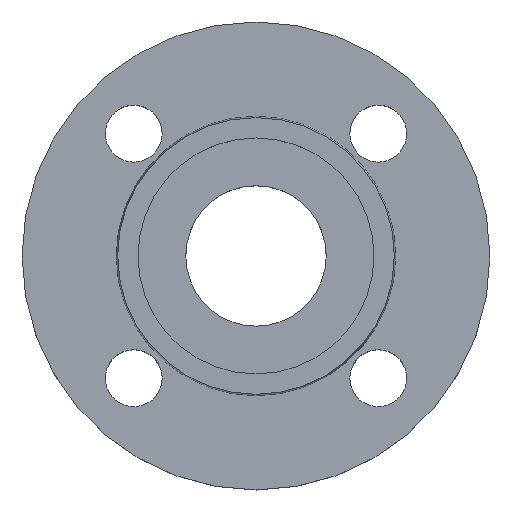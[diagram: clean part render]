
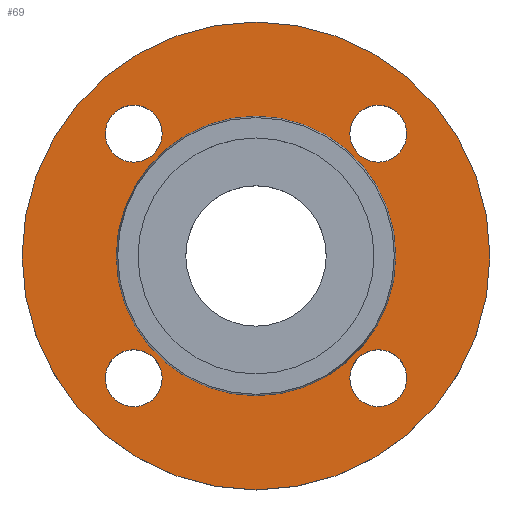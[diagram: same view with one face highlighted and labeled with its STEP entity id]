
A CAD part, top view. The second image highlights one B-rep face of the part: STEP entity #69.
In plain terms, the highlighted planar face has unit normal (0, 0, 1).
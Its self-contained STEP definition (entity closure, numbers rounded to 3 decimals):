
#14 = EDGE_CURVE ( 'NONE', #322, #485, #55, .T. ) ;
#18 = AXIS2_PLACEMENT_3D ( 'NONE', #90, #94, #93 ) ;
#23 = AXIS2_PLACEMENT_3D ( 'NONE', #533, #534, #535 ) ;
#30 = CIRCLE ( 'NONE', #18, 7. ) ;
#38 = CIRCLE ( 'NONE', #83, 7. ) ;
#52 = CIRCLE ( 'NONE', #125, 7. ) ;
#53 = AXIS2_PLACEMENT_3D ( 'NONE', #514, #515, #516 ) ;
#55 = CIRCLE ( 'NONE', #53, 7. ) ;
#56 = AXIS2_PLACEMENT_3D ( 'NONE', #279, #96, #281 ) ;
#57 = EDGE_CURVE ( 'NONE', #452, #378, #224, .T. ) ;
#66 = EDGE_CURVE ( 'NONE', #306, #429, #137, .T. ) ;
#69 = ADVANCED_FACE ( 'NONE', ( #540, #541, #542, #543, #544, #545 ), #546, .T. ) ;
#76 = CIRCLE ( 'NONE', #289, 57.5 ) ;
#83 = AXIS2_PLACEMENT_3D ( 'NONE', #223, #227, #230 ) ;
#90 = CARTESIAN_POINT ( 'NONE',  ( 30.052, 30.052, -2. ) ) ;
#93 = DIRECTION ( 'NONE',  ( 1., 0., 0. ) ) ;
#94 = DIRECTION ( 'NONE',  ( 0., 0., -1. ) ) ;
#95 = EDGE_CURVE ( 'NONE', #490, #315, #240, .T. ) ;
#96 = DIRECTION ( 'NONE',  ( 0., 0., -1. ) ) ;
#125 = AXIS2_PLACEMENT_3D ( 'NONE', #585, #587, #588 ) ;
#137 = CIRCLE ( 'NONE', #228, 7. ) ;
#144 = CARTESIAN_POINT ( 'NONE',  ( 0., 0., -2. ) ) ;
#145 = DIRECTION ( 'NONE',  ( 0., 0., -1. ) ) ;
#146 = DIRECTION ( 'NONE',  ( -1., 0., 0. ) ) ;
#151 = CIRCLE ( 'NONE', #56, 7. ) ;
#158 = AXIS2_PLACEMENT_3D ( 'NONE', #644, #645, #646 ) ;
#165 = CARTESIAN_POINT ( 'NONE',  ( 34.353, 0., -2. ) ) ;
#189 = CARTESIAN_POINT ( 'NONE',  ( 57.5, 0., -2. ) ) ;
#191 = CARTESIAN_POINT ( 'NONE',  ( -23.052, 30.052, -2. ) ) ;
#199 = CARTESIAN_POINT ( 'NONE',  ( 0., 0., -2. ) ) ;
#200 = DIRECTION ( 'NONE',  ( 0., 0., -1. ) ) ;
#201 = DIRECTION ( 'NONE',  ( -1., 0., 0. ) ) ;
#206 = CARTESIAN_POINT ( 'NONE',  ( -34.353, 0., -2. ) ) ;
#216 = EDGE_CURVE ( 'NONE', #429, #306, #52, .T. ) ;
#223 = CARTESIAN_POINT ( 'NONE',  ( 30.052, -30.052, -2. ) ) ;
#224 = CIRCLE ( 'NONE', #23, 34.353 ) ;
#227 = DIRECTION ( 'NONE',  ( 0., 0., -1. ) ) ;
#228 = AXIS2_PLACEMENT_3D ( 'NONE', #536, #537, #539 ) ;
#230 = DIRECTION ( 'NONE',  ( 1., 0., 0. ) ) ;
#231 = AXIS2_PLACEMENT_3D ( 'NONE', #547, #548, #549 ) ;
#240 = CIRCLE ( 'NONE', #264, 7. ) ;
#251 = CARTESIAN_POINT ( 'NONE',  ( 37.052, 30.052, -2. ) ) ;
#252 = CARTESIAN_POINT ( 'NONE',  ( -57.5, 0., -2. ) ) ;
#257 = EDGE_CURVE ( 'NONE', #487, #403, #76, .T. ) ;
#258 = CARTESIAN_POINT ( 'NONE',  ( -23.052, -30.052, -2. ) ) ;
#264 = AXIS2_PLACEMENT_3D ( 'NONE', #556, #557, #558 ) ;
#276 = CARTESIAN_POINT ( 'NONE',  ( 23.052, -30.052, -2. ) ) ;
#279 = CARTESIAN_POINT ( 'NONE',  ( -30.052, -30.052, -2. ) ) ;
#281 = DIRECTION ( 'NONE',  ( 1., 0., 0. ) ) ;
#284 = CIRCLE ( 'NONE', #370, 34.353 ) ;
#289 = AXIS2_PLACEMENT_3D ( 'NONE', #617, #618, #619 ) ;
#300 = EDGE_CURVE ( 'NONE', #307, #499, #408, .T. ) ;
#306 = VERTEX_POINT ( 'NONE', #653 ) ;
#307 = VERTEX_POINT ( 'NONE', #654 ) ;
#315 = VERTEX_POINT ( 'NONE', #664 ) ;
#316 = EDGE_LOOP ( 'NONE', ( #386, #387 ) ) ;
#322 = VERTEX_POINT ( 'NONE', #665 ) ;
#327 = EDGE_LOOP ( 'NONE', ( #398, #399 ) ) ;
#354 = EDGE_CURVE ( 'NONE', #378, #452, #284, .T. ) ;
#370 = AXIS2_PLACEMENT_3D ( 'NONE', #144, #145, #146 ) ;
#378 = VERTEX_POINT ( 'NONE', #165 ) ;
#386 = ORIENTED_EDGE ( 'NONE', *, *, #300, .T. ) ;
#387 = ORIENTED_EDGE ( 'NONE', *, *, #471, .T. ) ;
#388 = ORIENTED_EDGE ( 'NONE', *, *, #95, .T. ) ;
#389 = ORIENTED_EDGE ( 'NONE', *, *, #570, .T. ) ;
#391 = ORIENTED_EDGE ( 'NONE', *, *, #216, .T. ) ;
#392 = ORIENTED_EDGE ( 'NONE', *, *, #66, .T. ) ;
#394 = ORIENTED_EDGE ( 'NONE', *, *, #560, .T. ) ;
#395 = ORIENTED_EDGE ( 'NONE', *, *, #14, .T. ) ;
#398 = ORIENTED_EDGE ( 'NONE', *, *, #57, .T. ) ;
#399 = ORIENTED_EDGE ( 'NONE', *, *, #354, .T. ) ;
#400 = ORIENTED_EDGE ( 'NONE', *, *, #441, .F. ) ;
#402 = ORIENTED_EDGE ( 'NONE', *, *, #257, .F. ) ;
#403 = VERTEX_POINT ( 'NONE', #189 ) ;
#408 = CIRCLE ( 'NONE', #158, 7. ) ;
#429 = VERTEX_POINT ( 'NONE', #191 ) ;
#434 = CIRCLE ( 'NONE', #451, 57.5 ) ;
#441 = EDGE_CURVE ( 'NONE', #403, #487, #434, .T. ) ;
#451 = AXIS2_PLACEMENT_3D ( 'NONE', #199, #200, #201 ) ;
#452 = VERTEX_POINT ( 'NONE', #206 ) ;
#459 = EDGE_LOOP ( 'NONE', ( #388, #389 ) ) ;
#460 = EDGE_LOOP ( 'NONE', ( #394, #395 ) ) ;
#463 = EDGE_LOOP ( 'NONE', ( #400, #402 ) ) ;
#471 = EDGE_CURVE ( 'NONE', #499, #307, #38, .T. ) ;
#483 = EDGE_LOOP ( 'NONE', ( #391, #392 ) ) ;
#485 = VERTEX_POINT ( 'NONE', #251 ) ;
#487 = VERTEX_POINT ( 'NONE', #252 ) ;
#490 = VERTEX_POINT ( 'NONE', #258 ) ;
#499 = VERTEX_POINT ( 'NONE', #276 ) ;
#514 = CARTESIAN_POINT ( 'NONE',  ( 30.052, 30.052, -2. ) ) ;
#515 = DIRECTION ( 'NONE',  ( 0., 0., -1. ) ) ;
#516 = DIRECTION ( 'NONE',  ( 1., 0., 0. ) ) ;
#533 = CARTESIAN_POINT ( 'NONE',  ( 0., 0., -2. ) ) ;
#534 = DIRECTION ( 'NONE',  ( 0., 0., -1. ) ) ;
#535 = DIRECTION ( 'NONE',  ( -1., 0., 0. ) ) ;
#536 = CARTESIAN_POINT ( 'NONE',  ( -30.052, 30.052, -2. ) ) ;
#537 = DIRECTION ( 'NONE',  ( 0., 0., -1. ) ) ;
#539 = DIRECTION ( 'NONE',  ( 1., 0., 0. ) ) ;
#540 = FACE_BOUND ( 'NONE', #316, .T. ) ;
#541 = FACE_BOUND ( 'NONE', #459, .T. ) ;
#542 = FACE_BOUND ( 'NONE', #483, .T. ) ;
#543 = FACE_BOUND ( 'NONE', #460, .T. ) ;
#544 = FACE_BOUND ( 'NONE', #327, .T. ) ;
#545 = FACE_OUTER_BOUND ( 'NONE', #463, .T. ) ;
#546 = PLANE ( 'NONE',  #231 ) ;
#547 = CARTESIAN_POINT ( 'NONE',  ( 34.353, 0., -2. ) ) ;
#548 = DIRECTION ( 'NONE',  ( 0., 0., 1. ) ) ;
#549 = DIRECTION ( 'NONE',  ( 1., 0., 0. ) ) ;
#556 = CARTESIAN_POINT ( 'NONE',  ( -30.052, -30.052, -2. ) ) ;
#557 = DIRECTION ( 'NONE',  ( 0., 0., -1. ) ) ;
#558 = DIRECTION ( 'NONE',  ( 1., 0., 0. ) ) ;
#560 = EDGE_CURVE ( 'NONE', #485, #322, #30, .T. ) ;
#570 = EDGE_CURVE ( 'NONE', #315, #490, #151, .T. ) ;
#585 = CARTESIAN_POINT ( 'NONE',  ( -30.052, 30.052, -2. ) ) ;
#587 = DIRECTION ( 'NONE',  ( 0., 0., -1. ) ) ;
#588 = DIRECTION ( 'NONE',  ( 1., 0., 0. ) ) ;
#617 = CARTESIAN_POINT ( 'NONE',  ( 0., 0., -2. ) ) ;
#618 = DIRECTION ( 'NONE',  ( 0., 0., -1. ) ) ;
#619 = DIRECTION ( 'NONE',  ( -1., 0., 0. ) ) ;
#644 = CARTESIAN_POINT ( 'NONE',  ( 30.052, -30.052, -2. ) ) ;
#645 = DIRECTION ( 'NONE',  ( 0., 0., -1. ) ) ;
#646 = DIRECTION ( 'NONE',  ( 1., 0., 0. ) ) ;
#653 = CARTESIAN_POINT ( 'NONE',  ( -37.052, 30.052, -2. ) ) ;
#654 = CARTESIAN_POINT ( 'NONE',  ( 37.052, -30.052, -2. ) ) ;
#664 = CARTESIAN_POINT ( 'NONE',  ( -37.052, -30.052, -2. ) ) ;
#665 = CARTESIAN_POINT ( 'NONE',  ( 23.052, 30.052, -2. ) ) ;
